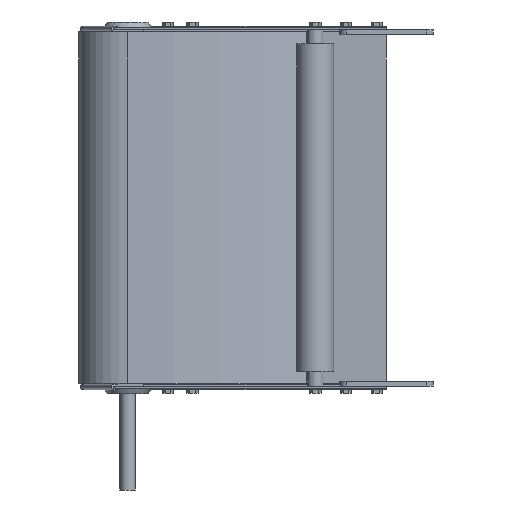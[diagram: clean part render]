
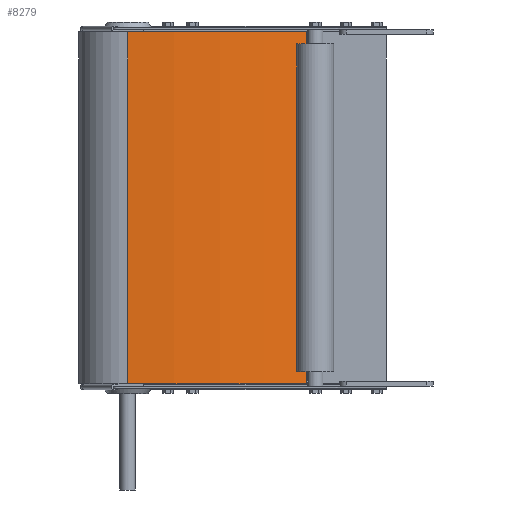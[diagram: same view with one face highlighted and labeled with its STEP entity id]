
A CAD part, front view. The second image highlights one B-rep face of the part: STEP entity #8279.
In plain terms, the highlighted cylindrical face has radius 508.8 mm (diameter 1017.6 mm), a partial arc.
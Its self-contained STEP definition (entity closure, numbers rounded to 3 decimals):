
#61 = CARTESIAN_POINT ( 'NONE',  ( 296.602, -71.429, 228.6 ) ) ;
#432 = VERTEX_POINT ( 'NONE', #7365 ) ;
#917 = LINE ( 'NONE', #1687, #3599 ) ;
#967 = CARTESIAN_POINT ( 'NONE',  ( 63.571, -127.4, -228.6 ) ) ;
#1092 = DIRECTION ( 'NONE',  ( 0., 0., 1. ) ) ;
#1612 = CARTESIAN_POINT ( 'NONE',  ( 63.571, -127.4, 228.6 ) ) ;
#1687 = CARTESIAN_POINT ( 'NONE',  ( 296.602, -71.429, -228.6 ) ) ;
#2192 = ORIENTED_EDGE ( 'NONE', *, *, #2668, .T. ) ;
#2404 = DIRECTION ( 'NONE',  ( -1., 0., 0. ) ) ;
#2431 = VERTEX_POINT ( 'NONE', #6470 ) ;
#2500 = FACE_OUTER_BOUND ( 'NONE', #7742, .T. ) ;
#2629 = EDGE_CURVE ( 'NONE', #9308, #6421, #9149, .T. ) ;
#2668 = EDGE_CURVE ( 'NONE', #432, #2431, #7137, .T. ) ;
#3331 = CARTESIAN_POINT ( 'NONE',  ( 64.602, 381.399, -228.6 ) ) ;
#3599 = VECTOR ( 'NONE', #6763, 1000. ) ;
#3706 = ORIENTED_EDGE ( 'NONE', *, *, #4474, .F. ) ;
#3801 = LINE ( 'NONE', #967, #5315 ) ;
#4474 = EDGE_CURVE ( 'NONE', #432, #9308, #3801, .T. ) ;
#4568 = CARTESIAN_POINT ( 'NONE',  ( 64.602, 381.399, -228.6 ) ) ;
#5315 = VECTOR ( 'NONE', #6815, 1000. ) ;
#6421 = VERTEX_POINT ( 'NONE', #61 ) ;
#6470 = CARTESIAN_POINT ( 'NONE',  ( 296.602, -71.429, -228.6 ) ) ;
#6572 = EDGE_CURVE ( 'NONE', #2431, #6421, #917, .T. ) ;
#6763 = DIRECTION ( 'NONE',  ( 0., 0., 1. ) ) ;
#6815 = DIRECTION ( 'NONE',  ( 0., 0., 1. ) ) ;
#6844 = DIRECTION ( 'NONE',  ( -1., 0., 0. ) ) ;
#7137 = CIRCLE ( 'NONE', #9614, 508.8 ) ;
#7266 = ORIENTED_EDGE ( 'NONE', *, *, #2629, .F. ) ;
#7365 = CARTESIAN_POINT ( 'NONE',  ( 63.571, -127.4, -228.6 ) ) ;
#7385 = DIRECTION ( 'NONE',  ( 1., 0., 0. ) ) ;
#7535 = DIRECTION ( 'NONE',  ( 0., 0., 1. ) ) ;
#7742 = EDGE_LOOP ( 'NONE', ( #7266, #3706, #2192, #8760 ) ) ;
#7986 = AXIS2_PLACEMENT_3D ( 'NONE', #3331, #1092, #7385 ) ;
#8279 = ADVANCED_FACE ( 'NONE', ( #2500 ), #8444, .T. ) ;
#8300 = CARTESIAN_POINT ( 'NONE',  ( 64.602, 381.399, 228.6 ) ) ;
#8444 = CYLINDRICAL_SURFACE ( 'NONE', #7986, 508.8 ) ;
#8760 = ORIENTED_EDGE ( 'NONE', *, *, #6572, .T. ) ;
#9149 = CIRCLE ( 'NONE', #9299, 508.8 ) ;
#9170 = DIRECTION ( 'NONE',  ( 0., 0., 1. ) ) ;
#9299 = AXIS2_PLACEMENT_3D ( 'NONE', #8300, #9170, #6844 ) ;
#9308 = VERTEX_POINT ( 'NONE', #1612 ) ;
#9614 = AXIS2_PLACEMENT_3D ( 'NONE', #4568, #7535, #2404 ) ;
